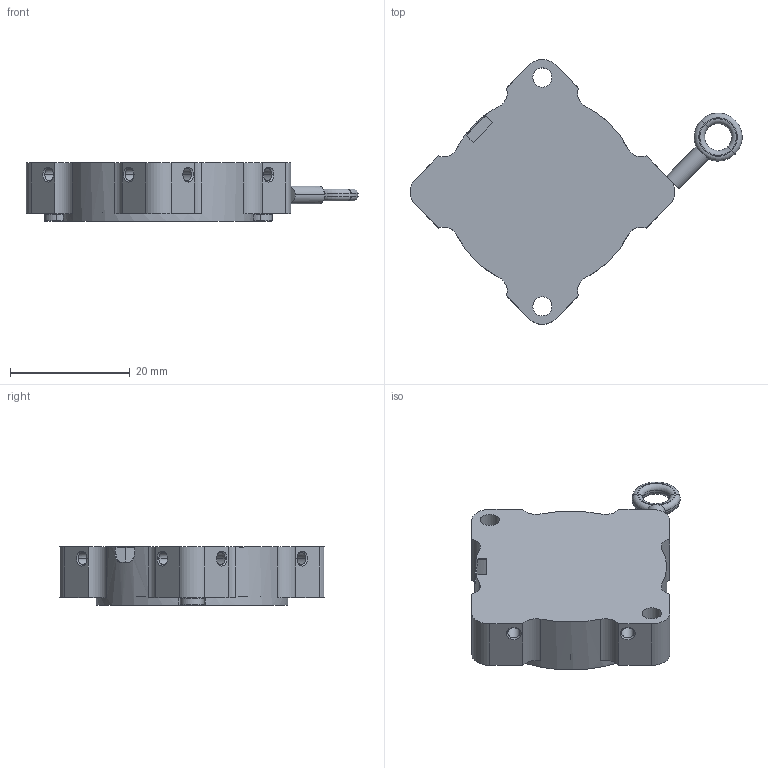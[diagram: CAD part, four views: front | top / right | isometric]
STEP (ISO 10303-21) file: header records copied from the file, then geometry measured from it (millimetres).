
FILE_DESCRIPTION((''),'2;1');
FILE_NAME('WDS-80-MT33-P_SW','2019-03-13T',('15000593'),(''),'PRO/ENGINEER BY PARAMETRIC TECHNOLOGY CORPORATION, 2015200','PRO/ENGINEER BY PARAMETRIC TECHNOLOGY CORPORATION, 2015200','');
FILE_SCHEMA(('CONFIG_CONTROL_DESIGN'));
Length unit declared in the file: millimetre
Products named in the file (1): WDS-80-MT33-P_SW
Bounding box: 55.37 x 44.16 x 9.8 mm (x, y, z)
Volume: 2509.5 mm3; surface area: 6298.6 mm2
Topology: 1 solids, 1 shells, 395 faces, 1077 edges, 706 vertices
Faces by surface type: extrusion 194, cylinder 82, plane 79, cone 24, torus 16
Entity records: 16909 total; most frequent: CARTESIAN_POINT 7751, ORIENTED_EDGE 2146, DIRECTION 1302, EDGE_CURVE 1073, B_SPLINE_CURVE_WITH_KNOTS 724, VERTEX_POINT 706, VECTOR 574, EDGE_LOOP 445
